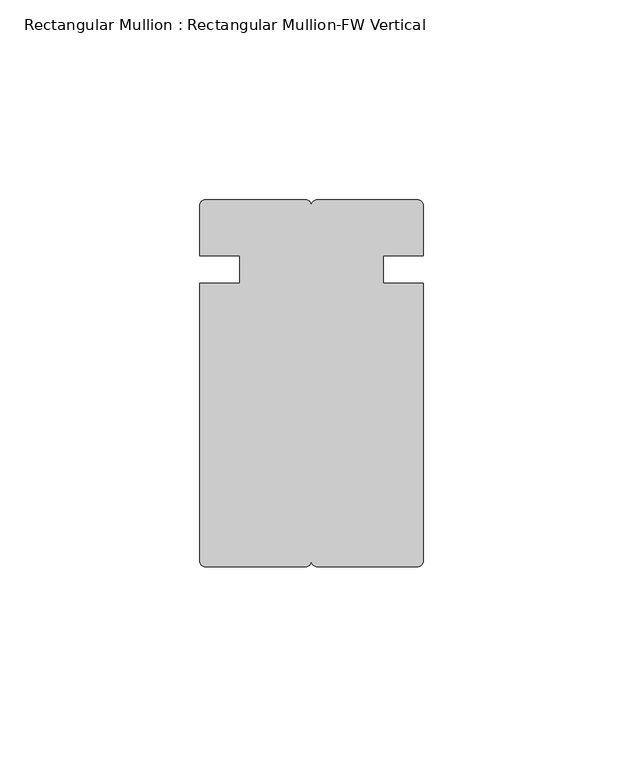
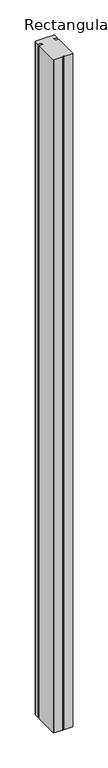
"""IFC4 building model written with IfcOpenShell, lengths in millimetres: member geometry, Rectangular Mullion : Rectangular Mullion-FW Vertical."""

from ifc_helpers import new_model, si_unit, frame, origin, place, context, project, spatial, circle_curve, source, transform, mapped, element, save
from ifc_brep_helpers import plane_surface, cylinder_surface, advanced_brep


def rectangular_mullion_rectangular_mullion_fw_vertical_2f159c8b(model_context):
    return source(origin(), model_context, "Body", "AdvancedBrep", [
        advanced_brep(
        [(26.5201031, 0.0, 0.0), (1.4798969, 0.0, 0.0), (0.0, -1.4798969, 0.0), (-1.4798969, 0.0, 0.0), (-26.5201031, 0.0, 0.0), (-28.0, -1.4798969, 0.0), (-28.0, -14.0, 0.0), (-18.0, -14.0, 0.0), (-18.0, -21.0, 0.0), (-28.0, -21.0, 0.0), (-28.0, -90.5201031, 0.0), (-26.5201031, -92.0, 0.0), (-1.4798969, -92.0, 0.0), (0.0, -90.5201031, 0.0), (1.4798969, -92.0, 0.0), (26.5201031, -92.0, 0.0), (28.0, -90.5201031, 0.0), (28.0, -21.0, 0.0), (18.0, -21.0, 0.0), (18.0, -14.0, 0.0), (28.0, -14.0, 0.0), (28.0, -1.4798969, 0.0), (26.5201031, 0.0, -2038.0), (28.0, -1.4798969, -2038.0), (28.0, -14.0, -2038.0), (18.0, -14.0, -2038.0), (18.0, -21.0, -2038.0), (28.0, -21.0, -2038.0), (28.0, -90.5201031, -2038.0), (26.5201031, -92.0, -2038.0), (1.4798969, -92.0, -2038.0), (0.0, -90.5201031, -2038.0), (-1.4798969, -92.0, -2038.0), (-26.5201031, -92.0, -2038.0), (-28.0, -90.5201031, -2038.0), (-28.0, -21.0, -2038.0), (-18.0, -21.0, -2038.0), (-18.0, -14.0, -2038.0), (-28.0, -14.0, -2038.0), (-28.0, -1.4798969, -2038.0), (-26.5201031, 0.0, -2038.0), (-1.4798969, 0.0, -2038.0), (0.0, -1.4798969, -2038.0), (1.4798969, 0.0, -2038.0)],
        [
            (0, 1),
            (1, 2, circle_curve(frame((1.4798969, -1.4798969, 0.0), z_axis=(0.0, 0.0, 1.0), x_axis=(1.0, 0.0, 0.0)), 1.4798969)),
            (2, 3, circle_curve(frame((-1.4798969, -1.4798969, 0.0), z_axis=(0.0, 0.0, 1.0), x_axis=(1.0, 0.0, 0.0)), 1.4798969)),
            (3, 4),
            (4, 5, circle_curve(frame((-26.5201031, -1.4798969, 0.0), z_axis=(0.0, 0.0, 1.0), x_axis=(1.0, 0.0, 0.0)), 1.4798969)),
            (5, 6),
            (6, 7),
            (7, 8),
            (8, 9),
            (9, 10),
            (10, 11, circle_curve(frame((-26.5201031, -90.5201031, 0.0), z_axis=(0.0, 0.0, 1.0), x_axis=(1.0, 0.0, 0.0)), 1.4798969)),
            (11, 12),
            (12, 13, circle_curve(frame((-1.4798969, -90.5201031, 0.0), z_axis=(0.0, 0.0, 1.0), x_axis=(1.0, 0.0, 0.0)), 1.4798969)),
            (13, 14, circle_curve(frame((1.4798969, -90.5201031, 0.0), z_axis=(0.0, 0.0, 1.0), x_axis=(1.0, 0.0, 0.0)), 1.4798969)),
            (14, 15),
            (15, 16, circle_curve(frame((26.5201031, -90.5201031, 0.0), z_axis=(0.0, 0.0, 1.0), x_axis=(1.0, 0.0, 0.0)), 1.4798969)),
            (16, 17),
            (17, 18),
            (18, 19),
            (19, 20),
            (20, 21),
            (21, 0, circle_curve(frame((26.5201031, -1.4798969, 0.0), z_axis=(0.0, 0.0, 1.0), x_axis=(1.0, 0.0, 0.0)), 1.4798969)),
            (22, 23, circle_curve(frame((26.5201031, -1.4798969, -2038.0), z_axis=(0.0, 0.0, -1.0), x_axis=(1.0, 0.0, 0.0)), 1.4798969)),
            (23, 24),
            (24, 25),
            (25, 26),
            (26, 27),
            (27, 28),
            (28, 29, circle_curve(frame((26.5201031, -90.5201031, -2038.0), z_axis=(0.0, 0.0, -1.0), x_axis=(1.0, 0.0, 0.0)), 1.4798969)),
            (29, 30),
            (30, 31, circle_curve(frame((1.4798969, -90.5201031, -2038.0), z_axis=(0.0, 0.0, -1.0), x_axis=(1.0, 0.0, 0.0)), 1.4798969)),
            (31, 32, circle_curve(frame((-1.4798969, -90.5201031, -2038.0), z_axis=(0.0, 0.0, -1.0), x_axis=(1.0, 0.0, 0.0)), 1.4798969)),
            (32, 33),
            (33, 34, circle_curve(frame((-26.5201031, -90.5201031, -2038.0), z_axis=(0.0, 0.0, -1.0), x_axis=(1.0, 0.0, 0.0)), 1.4798969)),
            (34, 35),
            (35, 36),
            (36, 37),
            (37, 38),
            (38, 39),
            (39, 40, circle_curve(frame((-26.5201031, -1.4798969, -2038.0), z_axis=(0.0, 0.0, -1.0), x_axis=(1.0, 0.0, 0.0)), 1.4798969)),
            (40, 41),
            (41, 42, circle_curve(frame((-1.4798969, -1.4798969, -2038.0), z_axis=(0.0, 0.0, -1.0), x_axis=(1.0, 0.0, 0.0)), 1.4798969)),
            (42, 43, circle_curve(frame((1.4798969, -1.4798969, -2038.0), z_axis=(0.0, 0.0, -1.0), x_axis=(1.0, 0.0, 0.0)), 1.4798969)),
            (43, 22),
            (0, 22),
            (43, 1),
            (42, 2),
            (41, 3),
            (40, 4),
            (39, 5),
            (38, 6),
            (37, 7),
            (36, 8),
            (35, 9),
            (34, 10),
            (33, 11),
            (32, 12),
            (31, 13),
            (30, 14),
            (29, 15),
            (28, 16),
            (27, 17),
            (26, 18),
            (25, 19),
            (24, 20),
            (23, 21),
        ],
        [
            plane_surface(frame((0.0, -95.7461011, 0.0), z_axis=(0.0, 0.0, 1.0), x_axis=(-1.0, 0.0, 0.0))),
            plane_surface(frame((0.0, -95.7461011, -2038.0), z_axis=(0.0, 0.0, -1.0), x_axis=(-1.0, 0.0, 0.0))),
            plane_surface(frame((26.5201031, 0.0, 0.0), z_axis=(0.0, 1.0, 0.0), x_axis=(0.0, 0.0, -1.0))),
            cylinder_surface(frame((1.4798969, -1.4798969, 0.0), z_axis=(0.0, 0.0, 1.0), x_axis=(1.0, 0.0, 0.0)), 1.4798969),
            cylinder_surface(frame((-1.4798969, -1.4798969, 0.0), z_axis=(0.0, 0.0, 1.0), x_axis=(1.0, 0.0, 0.0)), 1.4798969),
            plane_surface(frame((-1.4798969, 0.0, 0.0), z_axis=(0.0, 1.0, 0.0), x_axis=(0.0, 0.0, -1.0))),
            cylinder_surface(frame((-26.5201031, -1.4798969, 0.0), z_axis=(0.0, 0.0, 1.0), x_axis=(1.0, 0.0, 0.0)), 1.4798969),
            plane_surface(frame((-28.0, -1.4798969, 0.0), z_axis=(-1.0, 0.0, 0.0), x_axis=(0.0, 0.0, -1.0))),
            plane_surface(frame((-28.0, -14.0, 0.0), z_axis=(0.0, -1.0, 0.0), x_axis=(0.0, 0.0, -1.0))),
            plane_surface(frame((-18.0, -14.0, 0.0), z_axis=(-1.0, 0.0, 0.0), x_axis=(0.0, 0.0, -1.0))),
            plane_surface(frame((-18.0, -21.0, 0.0), z_axis=(0.0, 1.0, 0.0), x_axis=(0.0, 0.0, -1.0))),
            plane_surface(frame((-28.0, -21.0, 0.0), z_axis=(-1.0, 0.0, 0.0), x_axis=(0.0, 0.0, -1.0))),
            cylinder_surface(frame((-26.5201031, -90.5201031, 0.0), z_axis=(0.0, 0.0, 1.0), x_axis=(1.0, 0.0, 0.0)), 1.4798969),
            plane_surface(frame((-26.5201031, -92.0, 0.0), z_axis=(0.0, -1.0, 0.0), x_axis=(0.0, 0.0, -1.0))),
            cylinder_surface(frame((-1.4798969, -90.5201031, 0.0), z_axis=(0.0, 0.0, 1.0), x_axis=(1.0, 0.0, 0.0)), 1.4798969),
            cylinder_surface(frame((1.4798969, -90.5201031, 0.0), z_axis=(0.0, 0.0, 1.0), x_axis=(1.0, 0.0, 0.0)), 1.4798969),
            plane_surface(frame((1.4798969, -92.0, 0.0), z_axis=(0.0, -1.0, 0.0), x_axis=(0.0, 0.0, -1.0))),
            cylinder_surface(frame((26.5201031, -90.5201031, 0.0), z_axis=(0.0, 0.0, 1.0), x_axis=(1.0, 0.0, 0.0)), 1.4798969),
            plane_surface(frame((28.0, -90.5201031, 0.0), z_axis=(1.0, 0.0, 0.0), x_axis=(0.0, 0.0, -1.0))),
            plane_surface(frame((28.0, -21.0, 0.0), z_axis=(0.0, 1.0, 0.0), x_axis=(0.0, 0.0, -1.0))),
            plane_surface(frame((18.0, -21.0, 0.0), z_axis=(1.0, 0.0, 0.0), x_axis=(0.0, 0.0, -1.0))),
            plane_surface(frame((18.0, -14.0, 0.0), z_axis=(0.0, -1.0, 0.0), x_axis=(0.0, 0.0, -1.0))),
            plane_surface(frame((28.0, -14.0, 0.0), z_axis=(1.0, 0.0, 0.0), x_axis=(0.0, 0.0, -1.0))),
            cylinder_surface(frame((26.5201031, -1.4798969, 0.0), z_axis=(0.0, 0.0, 1.0), x_axis=(1.0, 0.0, 0.0)), 1.4798969),
        ],
        [
            (0, [[1, 2, 3, 4, 5, 6, 7, 8, 9, 10, 11, 12, 13, 14, 15, 16, 17, 18, 19, 20, 21, 22]]),
            (1, [[23, 24, 25, 26, 27, 28, 29, 30, 31, 32, 33, 34, 35, 36, 37, 38, 39, 40, 41, 42, 43, 44]]),
            (2, [[-1, 45, -44, 46]]),
            (3, [[-2, -46, -43, 47]]),
            (4, [[-3, -47, -42, 48]]),
            (5, [[-4, -48, -41, 49]]),
            (6, [[-5, -49, -40, 50]]),
            (7, [[-6, -50, -39, 51]]),
            (8, [[-7, -51, -38, 52]]),
            (9, [[-8, -52, -37, 53]]),
            (10, [[-9, -53, -36, 54]]),
            (11, [[-10, -54, -35, 55]]),
            (12, [[-11, -55, -34, 56]]),
            (13, [[-12, -56, -33, 57]]),
            (14, [[-13, -57, -32, 58]]),
            (15, [[-14, -58, -31, 59]]),
            (16, [[-15, -59, -30, 60]]),
            (17, [[-16, -60, -29, 61]]),
            (18, [[-17, -61, -28, 62]]),
            (19, [[-18, -62, -27, 63]]),
            (20, [[-19, -63, -26, 64]]),
            (21, [[-20, -64, -25, 65]]),
            (22, [[-21, -65, -24, 66]]),
            (23, [[-22, -66, -23, -45]]),
        ],
    ),
    ])


if __name__ == "__main__":
    model = new_model("IFC4")
    model_context = context("Model", 3, world=origin())
    ifc_project = project(units=[si_unit("LENGTHUNIT", "METRE", prefix="MILLI")], contexts=[model_context])
    site = spatial("IfcSite", under=ifc_project)
    building = spatial("IfcBuilding", under=site)
    placement = place(None, origin())
    rectangular_mullion_rectangular_mullion_fw_vertical_shape = rectangular_mullion_rectangular_mullion_fw_vertical_2f159c8b(model_context)
    element("IfcMember", 1, ObjectType="Rectangular Mullion : Rectangular Mullion-FW Vertical", at=placement, inside=building, context=model_context, shape_type="MappedRepresentation", body=[
        mapped(rectangular_mullion_rectangular_mullion_fw_vertical_shape, transform((0.0, 0.0, 0.0), x_axis=(1.0, 0.0, 0.0), y_axis=(0.0, 1.0, 0.0), z_axis=(0.0, 0.0, 1.0))),
    ])
    save(model, "model.ifc")
